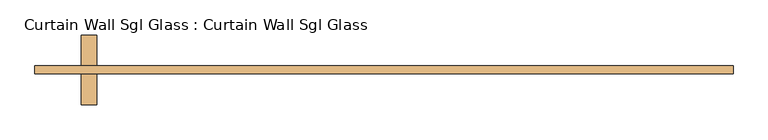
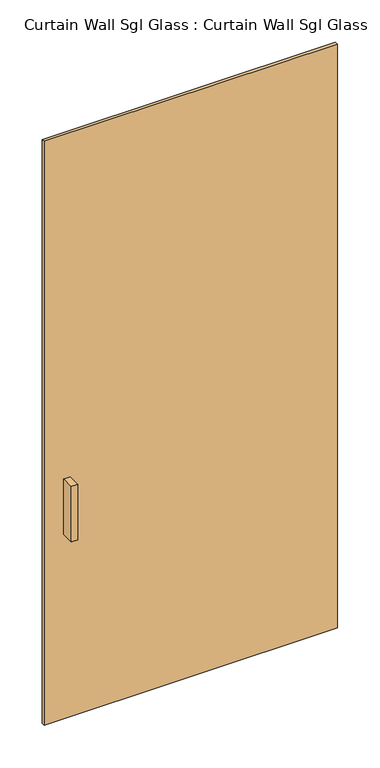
"""IFC4 building model written with IfcOpenShell, lengths in millimetres: door geometry, Curtain Wall Sgl Glass : Curtain Wall Sgl Glass."""

from ifc_helpers import new_model, si_unit, frame, origin, origin_with_axes, place, context, project, spatial, polyline, outline, extrude, source, transform, mapped, element, save


def curtain_wall_sgl_glass_curtain_wall_sgl_glass_863aa467(model_context):
    return source(origin(), model_context, "Body", "SweptSolid", [
        extrude(outline(polyline([(-471.8875, -12.7), (-497.2875, -12.7), (-497.2875, 38.1), (-471.8875, 38.1), (-471.8875, -12.7)])), frame((0.0, 0.0, 762.0), z_axis=(0.0, 0.0, 1.0), x_axis=(1.0, 0.0, 0.0)), (0.0, 0.0, 1.0), 228.6),
        extrude(outline(polyline([(-497.2875, 101.6), (-471.8875, 101.6), (-471.8875, 50.8), (-497.2875, 50.8), (-497.2875, 101.6)])), frame((0.0, 0.0, 762.0), z_axis=(0.0, 0.0, 1.0), x_axis=(1.0, 0.0, 0.0)), (0.0, 0.0, 1.0), 228.6),
        extrude(outline(polyline([(573.4875, 50.8), (573.4875, 38.1), (-573.4875, 38.1), (-573.4875, 50.8), (573.4875, 50.8)])), origin_with_axes(), (0.0, 0.0, 1.0), 2413.4),
    ])


if __name__ == "__main__":
    model = new_model("IFC4")
    model_context = context("Model", 3, world=origin())
    ifc_project = project(units=[si_unit("LENGTHUNIT", "METRE", prefix="MILLI")], contexts=[model_context])
    site = spatial("IfcSite", under=ifc_project)
    building = spatial("IfcBuilding", under=site)
    placement = place(None, origin())
    curtain_wall_sgl_glass_curtain_wall_sgl_glass_shape = curtain_wall_sgl_glass_curtain_wall_sgl_glass_863aa467(model_context)
    element("IfcDoor", 1, ObjectType="Curtain Wall Sgl Glass : Curtain Wall Sgl Glass", at=placement, inside=building, context=model_context, shape_type="MappedRepresentation", body=[
        mapped(curtain_wall_sgl_glass_curtain_wall_sgl_glass_shape, transform((0.0, 0.0, 0.0), x_axis=(1.0, 0.0, 0.0), y_axis=(0.0, 1.0, 0.0), z_axis=(0.0, 0.0, 1.0))),
    ])
    save(model, "model.ifc")
